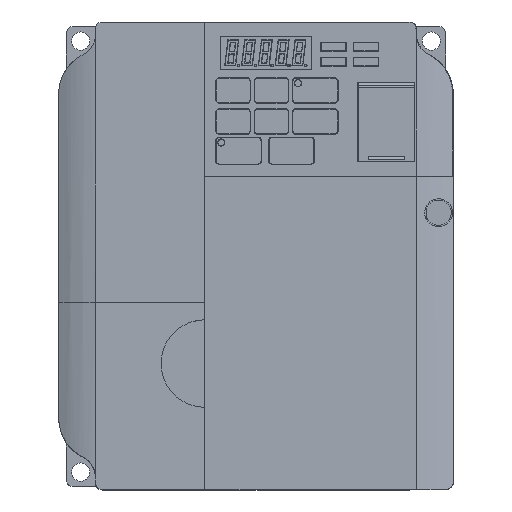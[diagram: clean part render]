
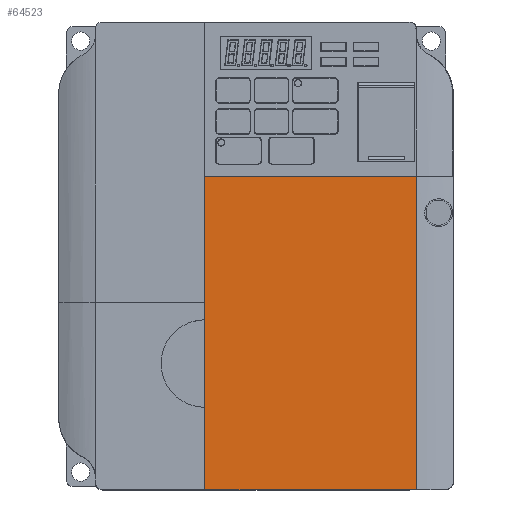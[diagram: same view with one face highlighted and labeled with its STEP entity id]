
A CAD part, top view. The second image highlights one B-rep face of the part: STEP entity #64523.
In plain terms, the highlighted planar face has unit normal (0, 0, 1).
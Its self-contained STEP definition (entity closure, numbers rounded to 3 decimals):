
#64053=DIRECTION('',(-1.,0.,0.));
#64054=VECTOR('',#64053,58.);
#64055=CARTESIAN_POINT('',(-6.,-75.8,8.));
#64056=LINE('',#64055,#64054);
#64062=DIRECTION('',(0.,1.,0.));
#64063=VECTOR('',#64062,85.8);
#64064=CARTESIAN_POINT('',(-64.,-75.8,8.));
#64065=LINE('',#64064,#64063);
#64079=DIRECTION('',(1.,0.,0.));
#64080=VECTOR('',#64079,58.);
#64081=CARTESIAN_POINT('',(-64.,10.,8.));
#64082=LINE('',#64081,#64080);
#64091=DIRECTION('',(0.,-1.,0.));
#64092=VECTOR('',#64091,85.8);
#64093=CARTESIAN_POINT('',(-6.,10.,8.));
#64094=LINE('',#64093,#64092);
#64304=CARTESIAN_POINT('',(-6.,10.,8.));
#64305=CARTESIAN_POINT('',(-6.,-75.8,8.));
#64306=VERTEX_POINT('',#64304);
#64307=VERTEX_POINT('',#64305);
#64310=CARTESIAN_POINT('',(-64.,-75.8,8.));
#64311=VERTEX_POINT('',#64310);
#64312=CARTESIAN_POINT('',(-64.,10.,8.));
#64313=VERTEX_POINT('',#64312);
#64512=CARTESIAN_POINT('',(-30.096,-32.779,8.));
#64513=DIRECTION('',(0.,0.,1.));
#64514=DIRECTION('',(1.,0.,0.));
#64515=AXIS2_PLACEMENT_3D('',#64512,#64513,#64514);
#64516=PLANE('',#64515);
#64517=ORIENTED_EDGE('',*,*,#64457,.T.);
#64518=ORIENTED_EDGE('',*,*,#64474,.T.);
#64519=ORIENTED_EDGE('',*,*,#64500,.T.);
#64520=ORIENTED_EDGE('',*,*,#64441,.T.);
#64521=EDGE_LOOP('',(#64517,#64518,#64519,#64520));
#64522=FACE_OUTER_BOUND('',#64521,.F.);
#64523=ADVANCED_FACE('',(#64522),#64516,.T.);
#64441=EDGE_CURVE('',#64307,#64311,#64056,.T.);
#64457=EDGE_CURVE('',#64311,#64313,#64065,.T.);
#64474=EDGE_CURVE('',#64313,#64306,#64082,.T.);
#64500=EDGE_CURVE('',#64306,#64307,#64094,.T.);
